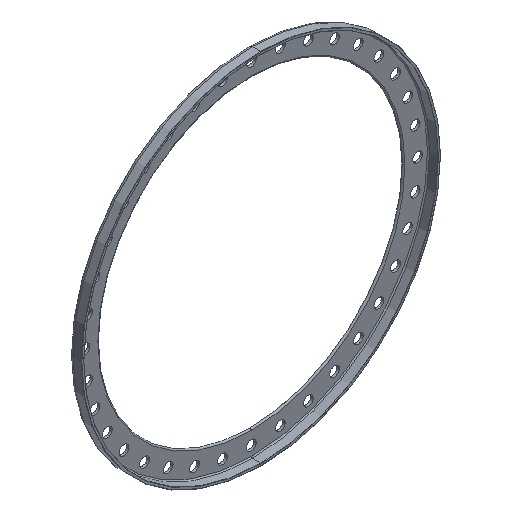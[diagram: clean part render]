
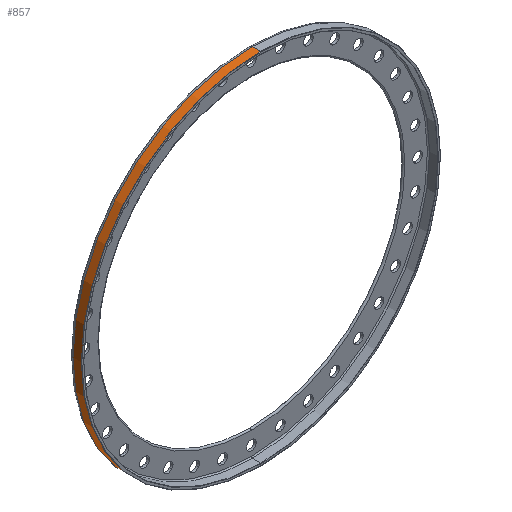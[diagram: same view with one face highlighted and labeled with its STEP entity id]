
A CAD part, isometric view. The second image highlights one B-rep face of the part: STEP entity #857.
In plain terms, the highlighted cylindrical face has radius 371.3 mm (diameter 742.6 mm), a partial arc.
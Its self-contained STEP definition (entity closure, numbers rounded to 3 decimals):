
#793=CARTESIAN_POINT('Vertex',(0.,2.1,-371.3)) ;
#796=CARTESIAN_POINT('Axis2P3D Location',(0.,2.1,0.)) ;
#800=CARTESIAN_POINT('Vertex',(0.,2.1,371.3)) ;
#827=CARTESIAN_POINT('Axis2P3D Location',(0.,-3.1,0.)) ;
#832=CARTESIAN_POINT('Line Origine',(0.,-6.75,371.3)) ;
#836=CARTESIAN_POINT('Vertex',(0.,-15.1,371.3)) ;
#839=CARTESIAN_POINT('Line Origine',(0.,-6.75,-371.3)) ;
#843=CARTESIAN_POINT('Vertex',(0.,-15.1,-371.3)) ;
#846=CARTESIAN_POINT('Axis2P3D Location',(0.,-15.1,0.)) ;
#797=DIRECTION('Axis2P3D Direction',(0.,1.,0.)) ;
#828=DIRECTION('Axis2P3D Direction',(0.,1.,0.)) ;
#829=DIRECTION('Axis2P3D XDirection',(0.,0.,1.)) ;
#833=DIRECTION('Vector Direction',(0.,1.,0.)) ;
#840=DIRECTION('Vector Direction',(0.,1.,0.)) ;
#847=DIRECTION('Axis2P3D Direction',(0.,1.,0.)) ;
#798=AXIS2_PLACEMENT_3D('Circle Axis2P3D',#796,#797,$) ;
#830=AXIS2_PLACEMENT_3D('Cylinder Axis2P3D',#827,#828,#829) ;
#848=AXIS2_PLACEMENT_3D('Circle Axis2P3D',#846,#847,$) ;
#852=ORIENTED_EDGE('',*,*,#838,.F.) ;
#853=ORIENTED_EDGE('',*,*,#802,.F.) ;
#854=ORIENTED_EDGE('',*,*,#845,.T.) ;
#855=ORIENTED_EDGE('',*,*,#850,.T.) ;
#834=VECTOR('Line Direction',#833,1.) ;
#841=VECTOR('Line Direction',#840,1.) ;
#857=ADVANCED_FACE('Corps principal',(#856),#831,.T.) ;
#799=CIRCLE('generated circle',#798,371.3) ;
#849=CIRCLE('generated circle',#848,371.3) ;
#831=CYLINDRICAL_SURFACE('generated cylinder',#830,371.3) ;
#802=EDGE_CURVE('',#794,#801,#799,.T.) ;
#838=EDGE_CURVE('',#801,#837,#835,.F.) ;
#845=EDGE_CURVE('',#794,#844,#842,.F.) ;
#850=EDGE_CURVE('',#844,#837,#849,.T.) ;
#851=EDGE_LOOP('',(#852,#853,#854,#855)) ;
#856=FACE_OUTER_BOUND('',#851,.T.) ;
#835=LINE('Line',#832,#834) ;
#842=LINE('Line',#839,#841) ;
#794=VERTEX_POINT('',#793) ;
#801=VERTEX_POINT('',#800) ;
#837=VERTEX_POINT('',#836) ;
#844=VERTEX_POINT('',#843) ;
